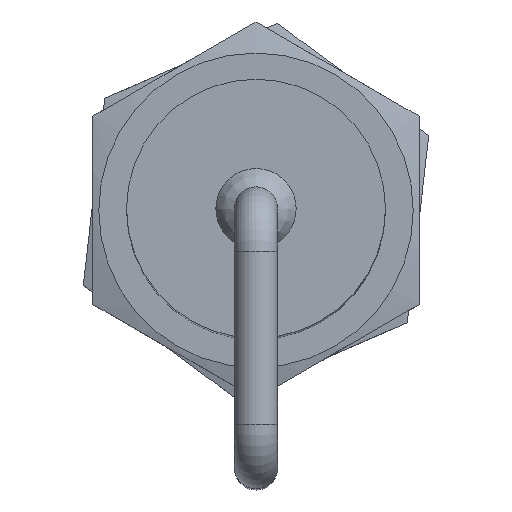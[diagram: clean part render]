
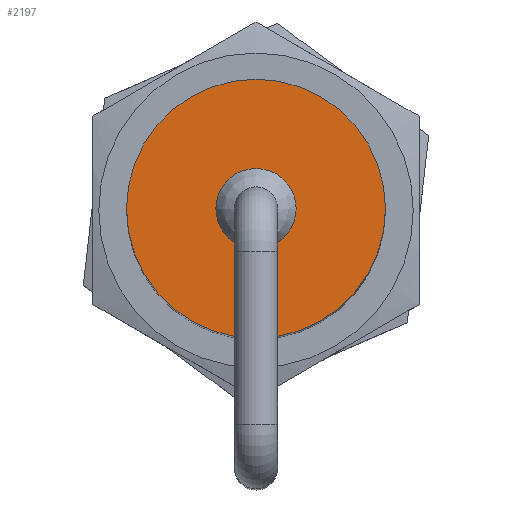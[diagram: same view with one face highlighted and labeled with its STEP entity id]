
A CAD part, top view. The second image highlights one B-rep face of the part: STEP entity #2197.
In plain terms, the highlighted planar face has unit normal (0, 0, 1).
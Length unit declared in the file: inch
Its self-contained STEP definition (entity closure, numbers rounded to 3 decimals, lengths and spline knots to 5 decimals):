
#220=FACE_BOUND('',#508,.T.);
#256=PLANE('',#2537);
#371=FACE_OUTER_BOUND('',#507,.T.);
#507=EDGE_LOOP('',(#1821));
#508=EDGE_LOOP('',(#1822));
#774=CIRCLE('',#2523,0.11628);
#779=CIRCLE('',#2536,0.375);
#955=VERTEX_POINT('',#5696);
#979=VERTEX_POINT('',#12222);
#1222=EDGE_CURVE('',#955,#955,#774,.T.);
#1265=EDGE_CURVE('',#979,#979,#779,.T.);
#1821=ORIENTED_EDGE('',*,*,#1265,.T.);
#1822=ORIENTED_EDGE('',*,*,#1222,.T.);
#2197=ADVANCED_FACE('',(#371,#220),#256,.T.);
#2523=AXIS2_PLACEMENT_3D('',#5698,#2903,#2904);
#2536=AXIS2_PLACEMENT_3D('',#12223,#2938,#2939);
#2537=AXIS2_PLACEMENT_3D('',#12225,#2941,#2942);
#2903=DIRECTION('center_axis',(0.,0.,
-1.));
#2904=DIRECTION('ref_axis',(1.,0.,0.));
#2938=DIRECTION('center_axis',(0.,0.,1.));
#2939=DIRECTION('ref_axis',(1.,0.,0.));
#2941=DIRECTION('center_axis',(0.,0.,1.));
#2942=DIRECTION('ref_axis',(1.,0.,0.));
#5696=CARTESIAN_POINT('',(-0.11628,0.,3.5));
#5698=CARTESIAN_POINT('Origin',(0.,0.,
3.5));
#12222=CARTESIAN_POINT('',(-0.375,0.,3.5));
#12223=CARTESIAN_POINT('Origin',(0.,0.,3.5));
#12225=CARTESIAN_POINT('Origin',(0.,0.,3.5));
